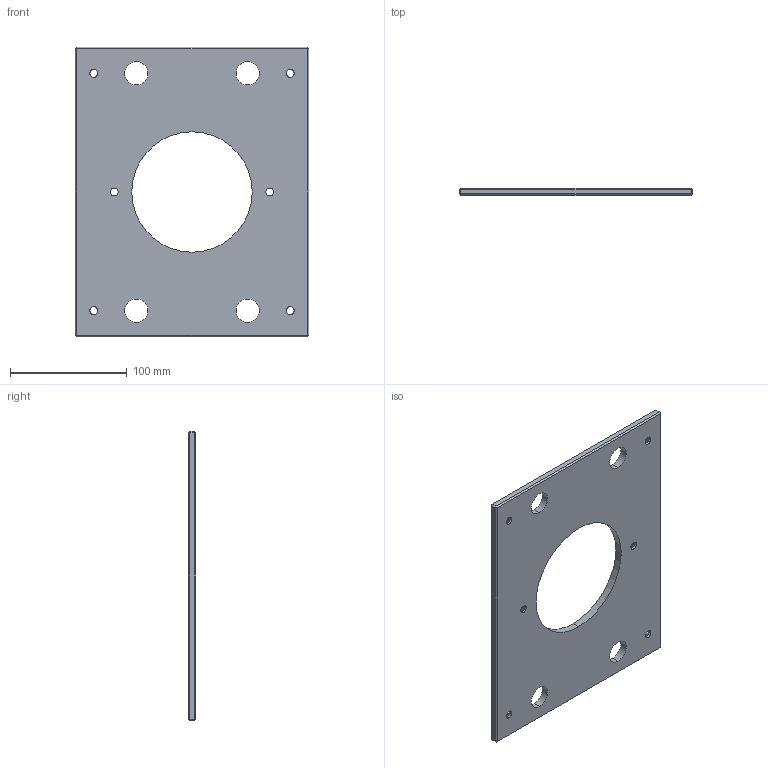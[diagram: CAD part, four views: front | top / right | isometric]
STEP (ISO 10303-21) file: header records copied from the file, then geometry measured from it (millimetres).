
FILE_DESCRIPTION (( 'STEP AP214' ), '1' );
FILE_NAME ('ME-0619-CH-1008.STEP', '2020-02-10T10:35:54', ( '' ), ( '' ), 'SwSTEP 2.0', 'SolidWorks 2018', '' );
FILE_SCHEMA (( 'AUTOMOTIVE_DESIGN' ));
Length unit declared in the file: inch
Products named in the file (1): ME-0619-CH-1008
Bounding box: 200.03 x 6.35 x 247.65 mm (x, y, z)
Volume: 249423.1 mm3; surface area: 88082.1 mm2
Topology: 1 solids, 1 shells, 60 faces, 138 edges, 80 vertices
Faces by surface type: plane 26, cylinder 22, cone 12
Entity records: 1754 total; most frequent: DIRECTION 316, CARTESIAN_POINT 279, ORIENTED_EDGE 276, EDGE_CURVE 138, AXIS2_PLACEMENT_3D 117, VECTOR 82, LINE 82, EDGE_LOOP 82
